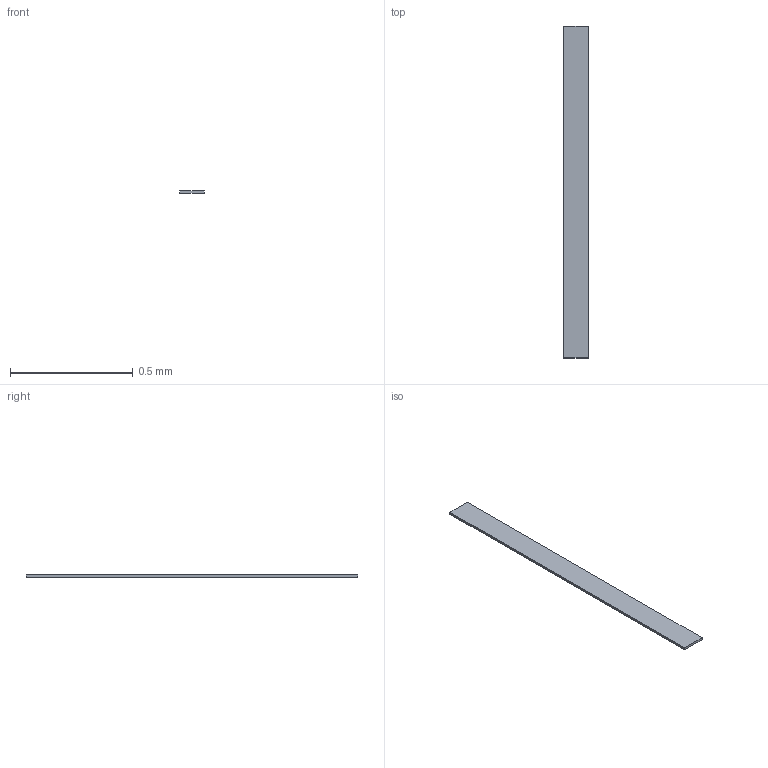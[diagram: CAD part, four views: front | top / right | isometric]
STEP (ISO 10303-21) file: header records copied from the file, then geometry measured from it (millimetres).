
FILE_DESCRIPTION(/* description */ ('STEP AP242 Edition 2','CAx-IF Rec.Pracs.---Representation and Presentation of Product Manufacturing Information (PMI)---4.0---2014-10-13','CAx-IF Rec.Pracs.---3D Tessellated Geometry---0.4---2014-09-14','2;1','CAx-IF Rec.Pracs.---User Defined Attributes---1.5---2016-08-15'),/* implementation_level */ '2;1');
FILE_NAME(/* name */ 'Drone Layout - Surface 198',/* time_stamp */ '2026-10-04T22:22:52Z',/* author */ (''),/* organization */ (''),/* preprocessor_version */ 'ST-DEVELOPER v20',/* originating_system */ 'ONSHAPE BY PTC INC, 1.221',/* authorisation */ ' ');
FILE_SCHEMA (('AP242_MANAGED_MODEL_BASED_3D_ENGINEERING_MIM_LF { 1 0 10303 442 3 1 4 }'));
Length unit declared in the file: metre
Products named in the file (1): cap:1__Line
Bounding box: 0.1 x 1.35 x 0.01 mm (x, y, z)
Volume: 0 mm3; surface area: 0.3 mm2
Topology: 1 solids, 1 shells, 6 faces, 12 edges, 8 vertices
Faces by surface type: plane 6
Entity records: 169 total; most frequent: CARTESIAN_POINT 27, DIRECTION 26, ORIENTED_EDGE 24, EDGE_CURVE 12, LINE 12, VECTOR 12, VERTEX_POINT 8, AXIS2_PLACEMENT_3D 7
